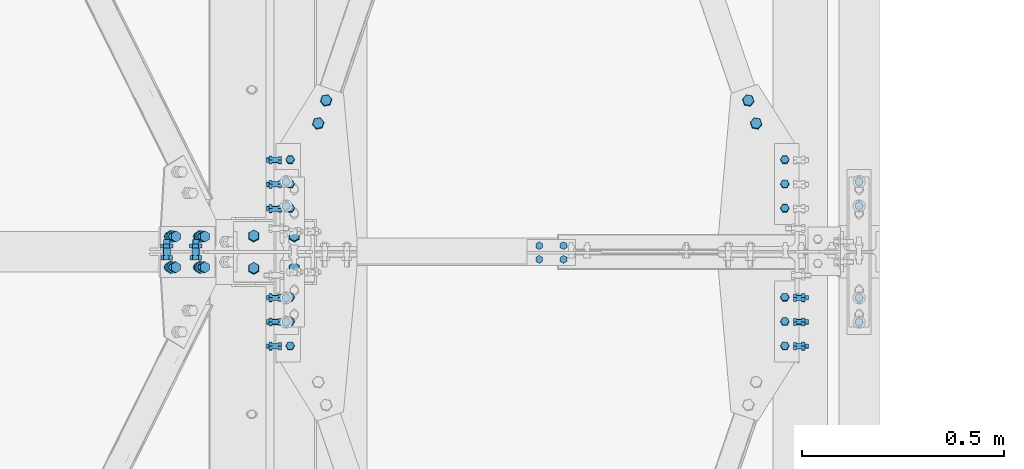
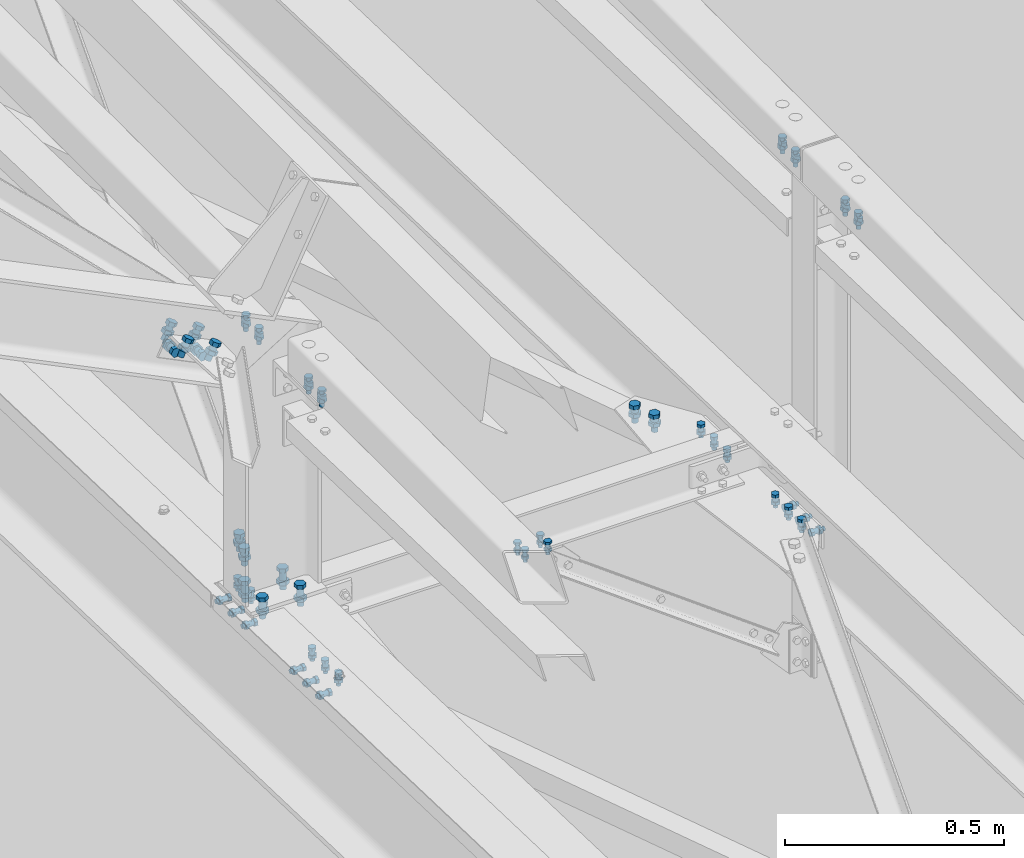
# One storey, part 192 of 362: 18 mechanical fasteners.
"""IFC2X3 building model written with IfcOpenShell, lengths in millimetres."""

import ifcopenshell
import ifcopenshell.guid

model = None  # the IFC model being written
_history = None  # IfcOwnerHistory: only IFC2X3 demands one
_inside = {}  # id of a spatial element -> (the spatial element, [elements in it])
_under = {}  # id of a project, library or spatial element -> (it, [spatial elements below it])
_declared = {}  # id of a project -> (the project, [libraries it declares])
_typed = {}  # id of a type object -> (the type object, [elements of that type])
_made_of = {}  # id of a material, layer set ... -> (it, [elements and type objects made of it])


def new_model(schema):
    """Start an empty IFC model of exactly this schema.

    Asked for "IFC4X3", IfcOpenShell would pick the latest addendum, in which some entities
    have other attributes; the version numbers below select the first issue.
    IFC2X3 requires an IfcOwnerHistory on every rooted entity: one is made here for all.
    """
    global model, _history
    if schema == "IFC4X3":
        model = ifcopenshell.file(schema_version=(4, 3, 0, 0))
    else:
        model = ifcopenshell.file(schema=schema)
    _inside.clear()
    _under.clear()
    _declared.clear()
    _typed.clear()
    _made_of.clear()
    _history = None
    if model.schema == "IFC2X3":
        org = make("IfcOrganization", Name="unknown")
        user = make(
            "IfcPersonAndOrganization",
            ThePerson=make("IfcPerson", FamilyName="unknown"),
            TheOrganization=org,
        )
        app = make(
            "IfcApplication",
            ApplicationDeveloper=org,
            Version="unknown",
            ApplicationFullName="unknown",
            ApplicationIdentifier="unknown",
        )
        _history = make(
            "IfcOwnerHistory",
            OwningUser=user,
            OwningApplication=app,
            ChangeAction="ADDED",
            CreationDate=0,
        )
    return model


def make(cls, **values):
    """One entity of the class cls with the attributes given. An attribute that is None is left unset."""
    return model.create_entity(
        cls, **{name: value for name, value in values.items() if value is not None}
    )


def rooted(cls, **values):
    """An entity with a GlobalId (a new one), such as an element, a storey or a relation."""
    return make(cls, GlobalId=ifcopenshell.guid.new(), OwnerHistory=_history, **values)


def si_unit(unit_type, name, prefix=None):
    """IfcSIUnit, for example si_unit("LENGTHUNIT", "METRE", prefix="MILLI")."""
    return make("IfcSIUnit", UnitType=unit_type, Prefix=prefix, Name=name)


def assignment(units):
    """IfcUnitAssignment: the units of a project."""
    return None if units is None else make("IfcUnitAssignment", Units=units)


def point(xyz):
    """IfcCartesianPoint."""
    return None if xyz is None else make("IfcCartesianPoint", Coordinates=xyz)


def direction(xyz):
    """IfcDirection."""
    return None if xyz is None else make("IfcDirection", DirectionRatios=xyz)


def frame(location, z_axis=None, x_axis=None):
    """IfcAxis2Placement3D, a coordinate frame: its origin and axes. An axis left out is left unset."""
    return make(
        "IfcAxis2Placement3D",
        Location=point(location),
        Axis=direction(z_axis),
        RefDirection=direction(x_axis),
    )


def frame_2d(location, x_axis=None):
    """IfcAxis2Placement2D, a coordinate frame in the plane: its origin and x axis."""
    return make(
        "IfcAxis2Placement2D", Location=point(location), RefDirection=direction(x_axis)
    )


def origin_with_axes():
    """The frame at (0, 0, 0) with the z axis (0, 0, 1) and the x axis (1, 0, 0) written out."""
    return frame((0.0, 0.0, 0.0), z_axis=(0.0, 0.0, 1.0), x_axis=(1.0, 0.0, 0.0))


def origin_2d_with_axis():
    """The frame at (0, 0) in the plane with the x axis (1, 0) written out."""
    return frame_2d((0.0, 0.0), x_axis=(1.0, 0.0))


def place(relative_to, where):
    """IfcLocalPlacement: puts the frame where relative to a parent placement (None: the world)."""
    return make(
        "IfcLocalPlacement", PlacementRelTo=relative_to, RelativePlacement=where
    )


def context(
    kind, dimensions, precision=None, world=None, true_north=None, identifier=None
):
    """IfcGeometricRepresentationContext, for example the 3D "Model" context."""
    return make(
        "IfcGeometricRepresentationContext",
        ContextIdentifier=identifier,
        ContextType=kind,
        CoordinateSpaceDimension=dimensions,
        Precision=precision,
        WorldCoordinateSystem=world,
        TrueNorth=true_north,
    )


def subcontext(parent, identifier, kind, view, scale=None):
    """IfcGeometricRepresentationSubContext, for example "Body" below "Model"."""
    return make(
        "IfcGeometricRepresentationSubContext",
        ContextIdentifier=identifier,
        ContextType=kind,
        ParentContext=parent,
        TargetScale=scale,
        TargetView=view,
    )


def project(units=None, contexts=None):
    """IfcProject with its units and contexts."""
    return rooted(
        "IfcProject",
        Name="project",
        RepresentationContexts=contexts,
        UnitsInContext=assignment(units),
    )


def spatial(cls, under=None, at=None, **own):
    """A site, building, storey or space (cls), placed at a placement, below another one or the project."""
    s = rooted(cls, ObjectPlacement=at, **own)
    if under is not None:
        _under.setdefault(under.id(), (under, []))[1].append(s)
    return s


def polyline(points):
    """IfcPolyline through the points."""
    return make("IfcPolyline", Points=[point(p) for p in points])


def circle_curve(where, radius):
    """IfcCircle in the frame where."""
    return make("IfcCircle", Position=where, Radius=radius)


def parameter(value):
    """IfcParameterValue: where a trimmed curve begins or ends, as a parameter of its basis curve."""
    return model.create_entity("IfcParameterValue", value)


def trimmed(basis, trim1, trim2, sense, master):
    """IfcTrimmedCurve: the piece of a basis curve between two trims."""
    return make(
        "IfcTrimmedCurve",
        BasisCurve=basis,
        Trim1=trim1,
        Trim2=trim2,
        SenseAgreement=sense,
        MasterRepresentation=master,
    )


def segment(curve, same_sense, transition):
    """IfcCompositeCurveSegment."""
    return make(
        "IfcCompositeCurveSegment",
        Transition=transition,
        SameSense=same_sense,
        ParentCurve=curve,
    )


def composite_curve(segments, self_intersect=None):
    """IfcCompositeCurve: segments joined end to end."""
    return make("IfcCompositeCurve", Segments=segments, SelfIntersect=self_intersect)


def profile(cls, at=None, kind="AREA", **sizes):
    """A parametric profile (cls). Its sizes go by their IFC names, for example OverallWidth=200.0."""
    return make(cls, ProfileType=kind, Position=at, **sizes)


def circle(**sizes):
    """IfcCircleProfileDef."""
    return profile("IfcCircleProfileDef", **sizes)


def outline(outer, holes=None, kind="AREA"):
    """IfcArbitraryClosedProfileDef: a profile drawn as a closed curve; with holes, ...WithVoids."""
    if holes is None:
        return make("IfcArbitraryClosedProfileDef", ProfileType=kind, OuterCurve=outer)
    return make(
        "IfcArbitraryProfileDefWithVoids",
        ProfileType=kind,
        OuterCurve=outer,
        InnerCurves=holes,
    )


def extrude(swept, where, along, depth):
    """IfcExtrudedAreaSolid: the profile swept, set in the frame where, extruded along a direction by depth."""
    return make(
        "IfcExtrudedAreaSolid",
        SweptArea=swept,
        Position=where,
        ExtrudedDirection=direction(along),
        Depth=depth,
    )


def shape(context_of_items, identifier, shape_type, items):
    """IfcShapeRepresentation: the items that make up one representation, for example the "Body"."""
    return make(
        "IfcShapeRepresentation",
        ContextOfItems=context_of_items,
        RepresentationIdentifier=identifier,
        RepresentationType=shape_type,
        Items=items,
    )


def source(mapping_origin, context_of_items, identifier, shape_type, items):
    """IfcRepresentationMap: a shape defined once, which mapped items show again and again."""
    return make(
        "IfcRepresentationMap",
        MappingOrigin=mapping_origin,
        MappedRepresentation=shape(context_of_items, identifier, shape_type, items),
    )


def transform(
    local_origin,
    x_axis=None,
    y_axis=None,
    z_axis=None,
    scale=None,
    scale2=None,
    scale3=None,
    uniform=True,
):
    """IfcCartesianTransformationOperator3D, or its non-uniform kind. x_axis, y_axis, z_axis: its Axis1, 2, 3."""
    if uniform:
        return make(
            "IfcCartesianTransformationOperator3D",
            Axis1=direction(x_axis),
            Axis2=direction(y_axis),
            LocalOrigin=point(local_origin),
            Scale=scale,
            Axis3=direction(z_axis),
        )
    return make(
        "IfcCartesianTransformationOperator3DnonUniform",
        Axis1=direction(x_axis),
        Axis2=direction(y_axis),
        LocalOrigin=point(local_origin),
        Scale=scale,
        Axis3=direction(z_axis),
        Scale2=scale2,
        Scale3=scale3,
    )


def mapped(mapping_source, mapping_target):
    """IfcMappedItem: shows the shape of a source again, moved by a transform."""
    return make(
        "IfcMappedItem", MappingSource=mapping_source, MappingTarget=mapping_target
    )


def material(Name=None, Category=None):
    """IfcMaterial."""
    return make("IfcMaterial", Name=Name, Category=Category)


def made_of(thing, what):
    """Note that an element or type object is made of a material, layer set ...; save() writes the relation."""
    if what is not None:
        _made_of.setdefault(what.id(), (what, []))[1].append(thing)
    return thing


def type_object(cls, material=None, **own):
    """A type object (cls), such as IfcWallType, which elements share."""
    return made_of(rooted(cls, **own), material)


def element(
    cls,
    number,
    at=None,
    inside=None,
    cuts=None,
    type_object=None,
    material=None,
    context=None,
    identifier="Body",
    shape_type=None,
    held_by="IfcProductDefinitionShape",
    body=None,
    shapes=None,
    **own,
):
    """One element of the class cls, such as IfcWall. Its Tag is "e" and its number.

    at: its placement. inside: the storey or other place that contains it. cuts: it is an
    opening in that element (IfcRelVoidsElement). A single representation is given by context,
    identifier, shape_type and body (its items); several are given by shapes. held_by: the class
    of the entity that holds the representations. save() writes the other relations.
    """
    e = rooted(cls, Tag="e%d" % number, ObjectPlacement=at, **own)
    if body is not None:
        shapes = [shape(context, identifier, shape_type, body)]
    if shapes is not None:
        e.Representation = make(held_by, Representations=shapes)
    if inside is not None:
        _inside.setdefault(inside.id(), (inside, []))[1].append(e)
    if cuts is not None:
        rooted(
            "IfcRelVoidsElement", RelatingBuildingElement=cuts, RelatedOpeningElement=e
        )
    if type_object is not None:
        _typed.setdefault(type_object.id(), (type_object, []))[1].append(e)
    return made_of(e, material)


def aggregate(whole, parts):
    """IfcRelAggregates: a whole, such as a stair, and the parts it consists of."""
    return rooted("IfcRelAggregates", RelatingObject=whole, RelatedObjects=parts)


def save(model, path):
    """Write the relations noted so far, then the file.

    IfcRelAggregates (storeys below a building ...), IfcRelContainedInSpatialStructure (elements
    in a storey), IfcRelDefinesByType, IfcRelAssociatesMaterial and IfcRelDeclares: one each for
    every whole, place, type object, material and project.
    """
    for whole, parts in _under.values():
        aggregate(whole, parts)
    for where, things in _inside.values():
        rooted(
            "IfcRelContainedInSpatialStructure",
            RelatedElements=things,
            RelatingStructure=where,
        )
    for kind, things in _typed.values():
        rooted("IfcRelDefinesByType", RelatedObjects=things, RelatingType=kind)
    for what, things in _made_of.values():
        rooted("IfcRelAssociatesMaterial", RelatedObjects=things, RelatingMaterial=what)
    for by, libraries in _declared.values():
        rooted("IfcRelDeclares", RelatingContext=by, RelatedDefinitions=libraries)
    model.write(path)


model = new_model("IFC2X3")

# Units and contexts
model_context = context("Model", 3, precision=1e-05, world=origin_with_axes())
body_context = subcontext(model_context, "Body", "Model", "MODEL_VIEW")
ifc_project = project(units=[si_unit("LENGTHUNIT", "METRE", prefix="MILLI"), si_unit("AREAUNIT", "SQUARE_METRE"), si_unit("VOLUMEUNIT", "CUBIC_METRE"), si_unit("MASSUNIT", "GRAM", prefix="KILO"), si_unit("TIMEUNIT", "SECOND"), si_unit("PLANEANGLEUNIT", "RADIAN"), si_unit("SOLIDANGLEUNIT", "STERADIAN"), si_unit("THERMODYNAMICTEMPERATUREUNIT", "DEGREE_CELSIUS"), si_unit("LUMINOUSINTENSITYUNIT", "LUMEN")], contexts=[model_context])

# Site, building, storey
site_placement = place(None, origin_with_axes())
site = spatial("IfcSite", under=ifc_project, at=site_placement, Name="Undefined", CompositionType="ELEMENT")
building_placement = place(site_placement, origin_with_axes())
building = spatial("IfcBuilding", under=site, at=building_placement, Name="Undefined", CompositionType="ELEMENT")
storey_placement = place(building_placement, origin_with_axes())
storey = spatial("IfcBuildingStorey", under=building, at=storey_placement, Name="Undefined", CompositionType="ELEMENT", Elevation=0.0)

# Mechanical fasteners
ifc_material_1 = material(Name="#_SB-8.8-ZINGUE")
mechanical_fastener_type = type_object("IfcMechanicalFastenerType", Name="Bolt assembly")
shared_shape_1 = source(origin_with_axes(), body_context, "Body", "SweptSolid", [
    extrude(circle(Radius=9.0, at=origin_2d_with_axis()), frame((0.0, 0.1, 0.0), z_axis=(0.0, 1.0, 0.0), x_axis=(1.0, 0.0, 0.0)), (0.0, 0.0, 1.0), 6.0),
    extrude(circle(Radius=9.0, at=origin_2d_with_axis()), frame((0.0, 5.90002706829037, 0.0), z_axis=(0.0, 1.0, 0.0), x_axis=(1.0, 0.0, 0.0)), (0.0, 0.0, 1.0), 6.1),
    extrude(outline(polyline([(13.85640646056, 0.0), (6.92820323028, 12.0000000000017), (-6.92820323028, 12.0000000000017), (-13.85640646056, 0.0), (-6.92820323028, -12.0000000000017), (6.92820323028, -12.0000000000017), (13.85640646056, 0.0)])), frame((0.0, -10.5600019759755, 0.0), z_axis=(0.0, 1.0, 0.0), x_axis=(1.0, 0.0, 0.0)), (0.0, 0.0, 1.0), 10.56),
    extrude(circle(Radius=8.0, at=origin_2d_with_axis()), frame((0.0, 0.0, 0.0), z_axis=(0.0, 1.0, 0.0), x_axis=(1.0, 0.0, 0.0)), (0.0, 0.0, 1.0), 40.0),
    extrude(outline(polyline([(15.3344231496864, 0.0), (7.6672115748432, 13.2800000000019), (-7.6672115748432, 13.2800000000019), (-15.3344231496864, 0.0), (-7.6672115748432, -13.2800000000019), (7.6672115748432, -13.2800000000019), (15.3344231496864, 0.0)])), frame((0.0, 12.0000270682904, 0.0), z_axis=(0.0, 1.0, 0.0), x_axis=(1.0, 0.0, 0.0)), (0.0, 0.0, 1.0), 10.56),
])
mechanical_fastener_1_placement = place(storey_placement, frame((38119.1074020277, 7562.0004842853, 8591.42363994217), z_axis=(-0.897398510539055, -1.29999898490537e-08, 0.441220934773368), x_axis=(0.0, 1.0, 0.0)))
element("IfcMechanicalFastener", 1, at=mechanical_fastener_1_placement, inside=storey, type_object=mechanical_fastener_type, material=ifc_material_1, Name="Bolt assembly", NominalDiameter=16.0, NominalLength=40.0, context=body_context, shape_type="MappedRepresentation", body=[
    mapped(shared_shape_1, transform((0.0, 0.0, -40.0))),
    mapped(shared_shape_1, transform((0.0, 0.0, 40.0))),
])
mechanical_fastener_2_placement = place(storey_placement, frame((38119.1074008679, 7638.00027906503, 8591.42363992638), z_axis=(0.897398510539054, 0.0, -0.44122093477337), x_axis=(0.0, -1.0, 0.0)))
element("IfcMechanicalFastener", 2, at=mechanical_fastener_2_placement, inside=storey, type_object=mechanical_fastener_type, material=ifc_material_1, Name="Bolt assembly", NominalDiameter=16.0, NominalLength=40.0, context=body_context, shape_type="MappedRepresentation", body=[
    mapped(shared_shape_1, transform((0.0, 0.0, 40.0))),
    mapped(shared_shape_1, transform((0.0, 0.0, -40.0))),
])
ifc_material_2 = material(Name="8.8-SB-ZINGUE")
shared_shape_2 = source(origin_with_axes(), body_context, "Body", "SweptSolid", [
    extrude(circle(Radius=7.0, at=origin_2d_with_axis()), frame((0.0, -0.100011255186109, 0.0), z_axis=(0.0, 1.0, 0.0), x_axis=(1.0, 0.0, 0.0)), (0.0, 0.0, 1.0), 6.1),
    extrude(circle(Radius=7.0, at=origin_2d_with_axis()), frame((0.0, -5.9000361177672, 0.0), z_axis=(0.0, 1.0, 0.0), x_axis=(1.0, 0.0, 0.0)), (0.0, 0.0, 1.0), 6.0),
    extrude(outline(polyline([(10.39230484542, 0.0), (5.19615242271, 9.00000000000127), (-5.19615242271, 9.00000000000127), (-10.39230484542, 0.0), (-5.19615242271, -9.00000000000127), (5.19615242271, -9.00000000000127), (10.39230484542, 0.0)])), frame((0.0, -13.9200361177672, 0.0), z_axis=(0.0, 1.0, 0.0), x_axis=(1.0, 0.0, 0.0)), (0.0, 0.0, 1.0), 7.92),
    extrude(circle(Radius=6.0, at=origin_2d_with_axis()), frame((0.0, -6.00003611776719, 0.0), z_axis=(0.0, 1.0, 0.0), x_axis=(1.0, 0.0, 0.0)), (0.0, 0.0, 1.0), 30.0),
    extrude(outline(polyline([(11.5008173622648, 0.0), (5.7504086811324, 9.96000000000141), (-5.7504086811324, 9.96000000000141), (-11.5008173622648, 0.0), (-5.7504086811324, -9.96000000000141), (5.7504086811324, -9.96000000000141), (11.5008173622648, 0.0)])), frame((0.0, 6.0, 0.0), z_axis=(0.0, 1.0, 0.0), x_axis=(1.0, 0.0, 0.0)), (0.0, 0.0, 1.0), 7.92),
])
for number, where, z_axis, x_axis, name in (
    (3, (38370.0, 7428.01076392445, 7690.50313556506), (0.0, -0.999506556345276, 0.031410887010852), (-1.0, 0.0, 0.0), "Bolt assembly"),
    (4, (38370.0, 7767.84299560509, 7679.82351422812), (0.0, -0.999506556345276, 0.031410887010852), (-1.0, 0.0, 0.0), "Bolt assembly"),
):
    element("IfcMechanicalFastener", number, at=place(storey_placement, frame(where, z_axis=z_axis, x_axis=x_axis)), inside=storey, type_object=mechanical_fastener_type, material=ifc_material_2, Name=name, NominalDiameter=12.0, NominalLength=30.0, context=body_context, shape_type="MappedRepresentation", body=[
        mapped(shared_shape_2, transform((0.0, 0.0, -60.0))),
        mapped(shared_shape_2, transform((0.0, 0.0, 0.0))),
        mapped(shared_shape_2, transform((0.0, 0.0, 60.0))),
    ])
shared_shape_3 = source(origin_with_axes(), body_context, "Body", "SweptSolid", [
    extrude(circle(Radius=7.0, at=origin_2d_with_axis()), frame((0.0, -3.89999843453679, 0.0), z_axis=(0.0, 1.0, 0.0), x_axis=(1.0, 0.0, 0.0)), (0.0, 0.0, 1.0), 4.0),
    extrude(outline(composite_curve([segment(polyline([(-7.0, 7.0), (7.0, 7.0)]), True, "CONTINUOUS"), segment(trimmed(circle_curve(frame_2d((7.0, 0.0), x_axis=(0.0, 1.0)), 7.0), [parameter(0.0)], [parameter(3.14159265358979)], False, "PARAMETER"), True, "CONTINUOUS"), segment(polyline([(7.0, -7.0), (-7.0, -7.0)]), True, "CONTINUOUS"), segment(trimmed(circle_curve(frame_2d((-7.0, 0.0), x_axis=(0.0, -1.0)), 7.0), [parameter(0.0)], [parameter(3.14159265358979)], False, "PARAMETER"), True, "DISCONTINUOUS")], self_intersect=False)), frame((0.0, -0.100011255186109, 0.0), z_axis=(0.0, 1.0, 0.0), x_axis=(1.0, 0.0, 0.0)), (0.0, 0.0, 1.0), 10.1),
    extrude(outline(polyline([(10.39230484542, 0.0), (5.19615242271, 9.00000000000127), (-5.19615242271, 9.00000000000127), (-10.39230484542, 0.0), (-5.19615242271, -9.00000000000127), (5.19615242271, -9.00000000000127), (10.39230484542, 0.0)])), frame((0.0, -11.9199984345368, 0.0), z_axis=(0.0, 1.0, 0.0), x_axis=(1.0, 0.0, 0.0)), (0.0, 0.0, 1.0), 7.92),
    extrude(circle(Radius=6.0, at=origin_2d_with_axis()), frame((0.0, -3.99999923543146, 0.0), z_axis=(0.0, 1.0, 0.0), x_axis=(1.0, 0.0, 0.0)), (0.0, 0.0, 1.0), 40.0),
    extrude(circle(Radius=10.8, at=origin_2d_with_axis()), frame((0.0, 10.0000000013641, 0.0), z_axis=(0.0, 1.0, 0.0), x_axis=(1.0, 0.0, 0.0)), (0.0, 0.0, 1.0), 3.96),
    extrude(outline(polyline([(11.5008173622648, 0.0), (5.7504086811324, 9.96000000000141), (-5.7504086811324, 9.96000000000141), (-11.5008173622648, 0.0), (-5.7504086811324, -9.96000000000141), (5.7504086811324, -9.96000000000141), (11.5008173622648, 0.0)])), frame((0.0, 13.96, 0.0), z_axis=(0.0, 1.0, 0.0), x_axis=(1.0, 0.0, 0.0)), (0.0, 0.0, 1.0), 7.92),
])
mechanical_fastener_3_placement = place(storey_placement, frame((39775.0, 7773.5, 8450.0), z_axis=(1.0, 0.0, 0.0), x_axis=(0.0, -1.0, 0.0)))
element("IfcMechanicalFastener", 5, at=mechanical_fastener_3_placement, inside=storey, type_object=mechanical_fastener_type, material=ifc_material_2, Name="Bolt assembly", NominalDiameter=12.0, NominalLength=40.0, context=body_context, shape_type="MappedRepresentation", body=[
    mapped(shared_shape_3, transform((0.0, 0.0, 0.0))),
    mapped(shared_shape_3, transform((60.0, 0.0, 0.0))),
])
shared_shape_4 = source(origin_with_axes(), body_context, "Body", "SweptSolid", [
    extrude(circle(Radius=7.0, at=origin_2d_with_axis()), frame((0.0, -3.89999843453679, 0.0), z_axis=(0.0, 1.0, 0.0), x_axis=(1.0, 0.0, 0.0)), (0.0, 0.0, 1.0), 4.0),
    extrude(outline(composite_curve([segment(polyline([(-7.0, 7.0), (7.0, 7.0)]), True, "CONTINUOUS"), segment(trimmed(circle_curve(frame_2d((7.0, 0.0), x_axis=(0.0, 1.0)), 7.0), [parameter(0.0)], [parameter(3.14159265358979)], False, "PARAMETER"), True, "CONTINUOUS"), segment(polyline([(7.0, -7.0), (-7.0, -7.0)]), True, "CONTINUOUS"), segment(trimmed(circle_curve(frame_2d((-7.0, 0.0), x_axis=(0.0, -1.0)), 7.0), [parameter(0.0)], [parameter(3.14159265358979)], False, "PARAMETER"), True, "DISCONTINUOUS")], self_intersect=False)), frame((0.0, -0.100011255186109, 0.0), z_axis=(0.0, 1.0, 0.0), x_axis=(1.0, 0.0, 0.0)), (0.0, 0.0, 1.0), 10.1),
    extrude(outline(polyline([(10.39230484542, 0.0), (5.19615242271, 9.00000000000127), (-5.19615242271, 9.00000000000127), (-10.39230484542, 0.0), (-5.19615242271, -9.00000000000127), (5.19615242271, -9.00000000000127), (10.39230484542, 0.0)])), frame((0.0, -11.9199984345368, 0.0), z_axis=(0.0, 1.0, 0.0), x_axis=(1.0, 0.0, 0.0)), (0.0, 0.0, 1.0), 7.92),
    extrude(circle(Radius=6.0, at=origin_2d_with_axis()), frame((0.0, -3.99999923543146, 0.0), z_axis=(0.0, 1.0, 0.0), x_axis=(1.0, 0.0, 0.0)), (0.0, 0.0, 1.0), 40.0),
    extrude(circle(Radius=10.8, at=origin_2d_with_axis()), frame((0.0, 10.0000000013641, 0.0), z_axis=(0.0, 1.0, 0.0), x_axis=(1.0, 0.0, 0.0)), (0.0, 0.0, 1.0), 3.96),
    extrude(outline(polyline([(11.5008173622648, 0.0), (5.7504086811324, 9.96000000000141), (-5.7504086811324, 9.96000000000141), (-11.5008173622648, 0.0), (-5.7504086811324, -9.96000000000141), (5.7504086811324, -9.96000000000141), (11.5008173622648, 0.0)])), frame((0.0, 13.96, 0.0), z_axis=(0.0, 1.0, 0.0), x_axis=(1.0, 0.0, 0.0)), (0.0, 0.0, 1.0), 7.92),
])
mechanical_fastener_4_placement = place(storey_placement, frame((39775.0, 7426.5, 8450.0), z_axis=(-1.0, 0.0, 0.0), x_axis=(0.0, 1.0, 0.0)))
element("IfcMechanicalFastener", 6, at=mechanical_fastener_4_placement, inside=storey, type_object=mechanical_fastener_type, material=ifc_material_2, Name="Bolt assembly", NominalDiameter=12.0, NominalLength=40.0, context=body_context, shape_type="MappedRepresentation", body=[
    mapped(shared_shape_4, transform((0.0, 0.0, 0.0))),
    mapped(shared_shape_4, transform((60.0, 0.0, 0.0))),
])
shared_shape_5 = source(origin_with_axes(), body_context, "Body", "SweptSolid", [
    extrude(circle(Radius=9.0, at=origin_2d_with_axis()), frame((0.0, -2.80035671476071, 0.0), z_axis=(0.0, 1.0, 0.0), x_axis=(1.0, 0.0, 0.0)), (0.0, 0.0, 1.0), 5.6),
    extrude(circle(Radius=9.0, at=origin_2d_with_axis()), frame((0.0, 2.89989517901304, 0.0), z_axis=(0.0, 1.0, 0.0), x_axis=(1.0, 0.0, 0.0)), (0.0, 0.0, 1.0), 6.1),
    extrude(circle(Radius=9.0, at=origin_2d_with_axis()), frame((0.0, -8.89990143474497, 0.0), z_axis=(0.0, 1.0, 0.0), x_axis=(1.0, 0.0, 0.0)), (0.0, 0.0, 1.0), 6.0),
    extrude(outline(polyline([(13.85640646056, 0.0), (6.92820323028, 12.0000000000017), (-6.92820323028, 12.0000000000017), (-13.85640646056, 0.0), (-6.92820323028, -12.0000000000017), (6.92820323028, -12.0000000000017), (13.85640646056, 0.0)])), frame((0.0, -19.559901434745, 0.0), z_axis=(0.0, 1.0, 0.0), x_axis=(1.0, 0.0, 0.0)), (0.0, 0.0, 1.0), 10.56),
    extrude(circle(Radius=8.0, at=origin_2d_with_axis()), frame((0.0, -8.99990143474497, 0.0), z_axis=(0.0, 1.0, 0.0), x_axis=(1.0, 0.0, 0.0)), (0.0, 0.0, 1.0), 40.0),
    extrude(outline(polyline([(15.3344231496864, 0.0), (7.6672115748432, 13.2800000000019), (-7.6672115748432, 13.2800000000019), (-15.3344231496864, 0.0), (-7.6672115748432, -13.2800000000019), (7.6672115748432, -13.2800000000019), (15.3344231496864, 0.0)])), frame((0.0, 8.9999337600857, 0.0), z_axis=(0.0, 1.0, 0.0), x_axis=(1.0, 0.0, 0.0)), (0.0, 0.0, 1.0), 10.56),
])
mechanical_fastener_5_placement = place(storey_placement, frame((38101.0174156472, 7600.00038452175, 8554.63022809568), z_axis=(-0.897398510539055, -1.29999898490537e-08, 0.441220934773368), x_axis=(0.44122027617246, 6.00001450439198e-09, 0.897398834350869)))
element("IfcMechanicalFastener", 7, at=mechanical_fastener_5_placement, inside=storey, type_object=mechanical_fastener_type, material=ifc_material_1, Name="Bolt assembly", NominalDiameter=16.0, NominalLength=40.0, context=body_context, shape_type="MappedRepresentation", body=[
    mapped(shared_shape_5, transform((0.0, 0.0, -40.0))),
    mapped(shared_shape_5, transform((0.0, 0.0, 40.0))),
])
shared_shape_6 = source(origin_with_axes(), body_context, "Body", "SweptSolid", [
    extrude(circle(Radius=7.0, at=origin_2d_with_axis()), frame((0.0, -3.89999843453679, 0.0), z_axis=(0.0, 1.0, 0.0), x_axis=(1.0, 0.0, 0.0)), (0.0, 0.0, 1.0), 4.0),
    extrude(outline(composite_curve([segment(polyline([(-7.0, 7.0), (7.0, 7.0)]), True, "CONTINUOUS"), segment(trimmed(circle_curve(frame_2d((7.0, 0.0), x_axis=(0.0, 1.0)), 7.0), [parameter(0.0)], [parameter(3.14159265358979)], False, "PARAMETER"), True, "CONTINUOUS"), segment(polyline([(7.0, -7.0), (-7.0, -7.0)]), True, "CONTINUOUS"), segment(trimmed(circle_curve(frame_2d((-7.0, 0.0), x_axis=(0.0, -1.0)), 7.0), [parameter(0.0)], [parameter(3.14159265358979)], False, "PARAMETER"), True, "DISCONTINUOUS")], self_intersect=False)), frame((0.0, -0.100011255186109, 0.0), z_axis=(0.0, 1.0, 0.0), x_axis=(1.0, 0.0, 0.0)), (0.0, 0.0, 1.0), 10.1),
    extrude(outline(polyline([(10.39230484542, 0.0), (5.19615242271, 9.00000000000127), (-5.19615242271, 9.00000000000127), (-10.39230484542, 0.0), (-5.19615242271, -9.00000000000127), (5.19615242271, -9.00000000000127), (10.39230484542, 0.0)])), frame((0.0, -11.9199984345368, 0.0), z_axis=(0.0, 1.0, 0.0), x_axis=(1.0, 0.0, 0.0)), (0.0, 0.0, 1.0), 7.92),
    extrude(circle(Radius=6.0, at=origin_2d_with_axis()), frame((0.0, -3.99999923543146, 0.0), z_axis=(0.0, 1.0, 0.0), x_axis=(1.0, 0.0, 0.0)), (0.0, 0.0, 1.0), 40.0),
    extrude(circle(Radius=10.8, at=origin_2d_with_axis()), frame((0.0, 10.0000000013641, 0.0), z_axis=(0.0, 1.0, 0.0), x_axis=(1.0, 0.0, 0.0)), (0.0, 0.0, 1.0), 3.96),
    extrude(outline(polyline([(11.5008173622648, 0.0), (5.7504086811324, 9.96000000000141), (-5.7504086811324, 9.96000000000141), (-11.5008173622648, 0.0), (-5.7504086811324, -9.96000000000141), (5.7504086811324, -9.96000000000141), (11.5008173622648, 0.0)])), frame((0.0, 13.96, 0.0), z_axis=(0.0, 1.0, 0.0), x_axis=(1.0, 0.0, 0.0)), (0.0, 0.0, 1.0), 7.92),
])
mechanical_fastener_6_placement = place(storey_placement, frame((38360.0, 7773.5, 8450.0), z_axis=(1.0, 0.0, 0.0), x_axis=(0.0, -1.0, 0.0)))
element("IfcMechanicalFastener", 8, at=mechanical_fastener_6_placement, inside=storey, type_object=mechanical_fastener_type, material=ifc_material_2, Name="Bolt assembly", NominalDiameter=12.0, NominalLength=40.0, context=body_context, shape_type="MappedRepresentation", body=[
    mapped(shared_shape_6, transform((0.0, 0.0, 0.0))),
    mapped(shared_shape_6, transform((60.0, 0.0, 0.0))),
])
shared_shape_7 = source(origin_with_axes(), body_context, "Body", "SweptSolid", [
    extrude(circle(Radius=7.0, at=origin_2d_with_axis()), frame((0.0, -3.89999843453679, 0.0), z_axis=(0.0, 1.0, 0.0), x_axis=(1.0, 0.0, 0.0)), (0.0, 0.0, 1.0), 4.0),
    extrude(outline(composite_curve([segment(polyline([(-7.0, 7.0), (7.0, 7.0)]), True, "CONTINUOUS"), segment(trimmed(circle_curve(frame_2d((7.0, 0.0), x_axis=(0.0, 1.0)), 7.0), [parameter(0.0)], [parameter(3.14159265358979)], False, "PARAMETER"), True, "CONTINUOUS"), segment(polyline([(7.0, -7.0), (-7.0, -7.0)]), True, "CONTINUOUS"), segment(trimmed(circle_curve(frame_2d((-7.0, 0.0), x_axis=(0.0, -1.0)), 7.0), [parameter(0.0)], [parameter(3.14159265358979)], False, "PARAMETER"), True, "DISCONTINUOUS")], self_intersect=False)), frame((0.0, -0.100011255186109, 0.0), z_axis=(0.0, 1.0, 0.0), x_axis=(1.0, 0.0, 0.0)), (0.0, 0.0, 1.0), 10.1),
    extrude(outline(polyline([(10.39230484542, 0.0), (5.19615242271, 9.00000000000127), (-5.19615242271, 9.00000000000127), (-10.39230484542, 0.0), (-5.19615242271, -9.00000000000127), (5.19615242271, -9.00000000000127), (10.39230484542, 0.0)])), frame((0.0, -11.9199984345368, 0.0), z_axis=(0.0, 1.0, 0.0), x_axis=(1.0, 0.0, 0.0)), (0.0, 0.0, 1.0), 7.92),
    extrude(circle(Radius=6.0, at=origin_2d_with_axis()), frame((0.0, -3.99999923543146, 0.0), z_axis=(0.0, 1.0, 0.0), x_axis=(1.0, 0.0, 0.0)), (0.0, 0.0, 1.0), 40.0),
    extrude(circle(Radius=10.8, at=origin_2d_with_axis()), frame((0.0, 10.0000000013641, 0.0), z_axis=(0.0, 1.0, 0.0), x_axis=(1.0, 0.0, 0.0)), (0.0, 0.0, 1.0), 3.96),
    extrude(outline(polyline([(11.5008173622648, 0.0), (5.7504086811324, 9.96000000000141), (-5.7504086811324, 9.96000000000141), (-11.5008173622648, 0.0), (-5.7504086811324, -9.96000000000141), (5.7504086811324, -9.96000000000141), (11.5008173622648, 0.0)])), frame((0.0, 13.96, 0.0), z_axis=(0.0, 1.0, 0.0), x_axis=(1.0, 0.0, 0.0)), (0.0, 0.0, 1.0), 7.92),
])
mechanical_fastener_7_placement = place(storey_placement, frame((38360.0, 7426.5, 8450.0), z_axis=(-1.0, 0.0, 0.0), x_axis=(0.0, 1.0, 0.0)))
element("IfcMechanicalFastener", 9, at=mechanical_fastener_7_placement, inside=storey, type_object=mechanical_fastener_type, material=ifc_material_2, Name="Bolt assembly", NominalDiameter=12.0, NominalLength=40.0, context=body_context, shape_type="MappedRepresentation", body=[
    mapped(shared_shape_7, transform((0.0, 0.0, 0.0))),
    mapped(shared_shape_7, transform((60.0, 0.0, 0.0))),
])
shared_shape_8 = source(origin_with_axes(), body_context, "Body", "SweptSolid", [
    extrude(circle(Radius=9.0, at=origin_2d_with_axis()), frame((0.0, -0.100011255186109, 0.0), z_axis=(0.0, 1.0, 0.0), x_axis=(1.0, 0.0, 0.0)), (0.0, 0.0, 1.0), 14.7),
    extrude(circle(Radius=9.0, at=origin_2d_with_axis()), frame((0.0, -9.9, 0.0), z_axis=(0.0, 1.0, 0.0), x_axis=(1.0, 0.0, 0.0)), (0.0, 0.0, 1.0), 10.0),
    extrude(outline(polyline([(13.85640646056, 0.0), (6.92820323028, 12.0000000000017), (-6.92820323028, 12.0000000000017), (-13.85640646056, 0.0), (-6.92820323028, -12.0000000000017), (6.92820323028, -12.0000000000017), (13.85640646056, 0.0)])), frame((0.0, -20.5600000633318, 0.0), z_axis=(0.0, 1.0, 0.0), x_axis=(1.0, 0.0, 0.0)), (0.0, 0.0, 1.0), 10.56),
    extrude(circle(Radius=8.0, at=origin_2d_with_axis()), frame((0.0, -10.0000010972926, 0.0), z_axis=(0.0, 1.0, 0.0), x_axis=(1.0, 0.0, 0.0)), (0.0, 0.0, 1.0), 50.0),
    extrude(outline(polyline([(15.3344231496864, 0.0), (7.6672115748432, 13.2800000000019), (-7.6672115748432, 13.2800000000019), (-15.3344231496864, 0.0), (-7.6672115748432, -13.2800000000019), (7.6672115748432, -13.2800000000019), (15.3344231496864, 0.0)])), frame((0.0, 14.5999903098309, 0.0), z_axis=(0.0, 1.0, 0.0), x_axis=(1.0, 0.0, 0.0)), (0.0, 0.0, 1.0), 10.56),
])
mechanical_fastener_8_placement = place(storey_placement, frame((38330.0, 7559.70531343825, 7812.42764782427), z_axis=(-1.0, 0.0, 0.0), x_axis=(3.14103090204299e-11, 0.999506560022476, -0.0314107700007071)))
element("IfcMechanicalFastener", 10, at=mechanical_fastener_8_placement, inside=storey, type_object=mechanical_fastener_type, material=ifc_material_2, Name="Bolt assembly", NominalDiameter=16.0, NominalLength=50.0, context=body_context, shape_type="MappedRepresentation", body=[
    mapped(shared_shape_8, transform((0.0, 0.0, -50.0))),
    mapped(shared_shape_8, transform((79.9999999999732, 9.09494701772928e-13, -50.0))),
    mapped(shared_shape_8, transform((0.0, 0.0, 50.0))),
    mapped(shared_shape_8, transform((79.9999999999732, 9.09494701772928e-13, 50.0))),
])
ifc_material_3 = material(Name="6.8")
shared_shape_9 = source(origin_with_axes(), body_context, "Body", "SweptSolid", [
    extrude(circle(Radius=6.0, at=origin_2d_with_axis()), frame((0.0, -6.20005331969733, 0.0), z_axis=(0.0, 1.0, 0.0), x_axis=(1.0, 0.0, 0.0)), (0.0, 0.0, 1.0), 6.3),
    extrude(circle(Radius=6.0, at=origin_2d_with_axis()), frame((0.0, -0.10007666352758, 0.0), z_axis=(0.0, 1.0, 0.0), x_axis=(1.0, 0.0, 0.0)), (0.0, 0.0, 1.0), 6.1),
    extrude(outline(polyline([(9.81495457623, 0.0), (4.907477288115, 8.5000000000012), (-4.907477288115, 8.5000000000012), (-9.81495457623, 0.0), (-4.907477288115, -8.5000000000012), (4.907477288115, -8.5000000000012), (9.81495457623, 0.0)])), frame((0.0, -13.8000533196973, 0.0), z_axis=(0.0, 1.0, 0.0), x_axis=(1.0, 0.0, 0.0)), (0.0, 0.0, 1.0), 7.5),
    extrude(circle(Radius=5.0, at=origin_2d_with_axis()), frame((0.0, -6.30005331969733, 0.0), z_axis=(0.0, 1.0, 0.0), x_axis=(1.0, 0.0, 0.0)), (0.0, 0.0, 1.0), 30.0),
    extrude(outline(polyline([(9.23760430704, 0.0), (4.61880215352, 8.00000000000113), (-4.61880215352, 8.00000000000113), (-9.23760430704, 0.0), (-4.61880215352, -8.00000000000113), (4.61880215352, -8.00000000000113), (9.23760430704, 0.0)])), frame((0.0, 5.99994687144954, 0.0), z_axis=(0.0, 1.0, 0.0), x_axis=(1.0, 0.0, 0.0)), (0.0, 0.0, 1.0), 8.4),
])
mechanical_fastener_9_placement = place(storey_placement, frame((39015.0, 7581.12374132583, 7691.69426581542), z_axis=(-1.0, 0.0, 0.0), x_axis=(3.14103090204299e-11, 0.999506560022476, -0.0314107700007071)))
element("IfcMechanicalFastener", 11, at=mechanical_fastener_9_placement, inside=storey, type_object=mechanical_fastener_type, material=ifc_material_3, Name="Bolt assembly", NominalDiameter=10.0, NominalLength=30.0, context=body_context, shape_type="MappedRepresentation", body=[
    mapped(shared_shape_9, transform((0.0, 0.0, -30.0))),
    mapped(shared_shape_9, transform((33.9999999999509, -3.27418092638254e-11, -30.0))),
    mapped(shared_shape_9, transform((0.0, 0.0, 30.0))),
    mapped(shared_shape_9, transform((33.9999999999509, -3.27418092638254e-11, 30.0))),
])
shared_shape_10 = source(origin_with_axes(), body_context, "Body", "SweptSolid", [
    extrude(circle(Radius=9.0, at=origin_2d_with_axis()), frame((0.0, -8.9, 0.0), z_axis=(0.0, 1.0, 0.0), x_axis=(1.0, 0.0, 0.0)), (0.0, 0.0, 1.0), 6.0),
    extrude(circle(Radius=9.0, at=origin_2d_with_axis()), frame((0.0, -3.09999932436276, 0.0), z_axis=(0.0, 1.0, 0.0), x_axis=(1.0, 0.0, 0.0)), (0.0, 0.0, 1.0), 6.1),
    extrude(outline(polyline([(13.85640646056, 0.0), (6.92820323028, 12.0000000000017), (-6.92820323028, 12.0000000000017), (-13.85640646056, 0.0), (-6.92820323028, -12.0000000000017), (6.92820323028, -12.0000000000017), (13.85640646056, 0.0)])), frame((0.0, -19.5600543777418, 0.0), z_axis=(0.0, 1.0, 0.0), x_axis=(1.0, 0.0, 0.0)), (0.0, 0.0, 1.0), 10.56),
    extrude(circle(Radius=8.0, at=origin_2d_with_axis()), frame((0.0, -9.0, 0.0), z_axis=(0.0, 1.0, 0.0), x_axis=(1.0, 0.0, 0.0)), (0.0, 0.0, 1.0), 40.0),
    extrude(outline(polyline([(15.3344231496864, 0.0), (7.6672115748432, 13.2800000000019), (-7.6672115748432, 13.2800000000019), (-15.3344231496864, 0.0), (-7.6672115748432, -13.2800000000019), (7.6672115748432, -13.2800000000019), (15.3344231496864, 0.0)])), frame((0.0, 3.00000067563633, 0.0), z_axis=(0.0, 1.0, 0.0), x_axis=(1.0, 0.0, 0.0)), (0.0, 0.0, 1.0), 10.56),
])
mechanical_fastener_10_placement = place(storey_placement, frame((38439.269962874, 7917.42459760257, 7678.12418436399), z_axis=(-0.946212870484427, 0.323385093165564, -0.0101629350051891), x_axis=(0.323545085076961, 0.945745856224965, -0.0297212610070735)))
element("IfcMechanicalFastener", 12, at=mechanical_fastener_10_placement, inside=storey, type_object=mechanical_fastener_type, material=ifc_material_2, Name="Bolt assembly", NominalDiameter=16.0, NominalLength=40.0, context=body_context, shape_type="MappedRepresentation", body=[
    mapped(shared_shape_10, transform((0.0, 0.0, 0.0))),
    mapped(shared_shape_10, transform((60.0, 0.0, 0.0))),
])
shared_shape_11 = source(origin_with_axes(), body_context, "Body", "SweptSolid", [
    extrude(circle(Radius=9.0, at=origin_2d_with_axis()), frame((0.0, 2.89989517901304, 0.0), z_axis=(0.0, 1.0, 0.0), x_axis=(1.0, 0.0, 0.0)), (0.0, 0.0, 1.0), 6.1),
    extrude(circle(Radius=9.0, at=origin_2d_with_axis()), frame((0.0, -2.9, 0.0), z_axis=(0.0, 1.0, 0.0), x_axis=(1.0, 0.0, 0.0)), (0.0, 0.0, 1.0), 6.0),
    extrude(outline(polyline([(13.85640646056, 0.0), (6.92820323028, 12.0000000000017), (-6.92820323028, 12.0000000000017), (-13.85640646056, 0.0), (-6.92820323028, -12.0000000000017), (6.92820323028, -12.0000000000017), (13.85640646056, 0.0)])), frame((0.0, -13.56, 0.0), z_axis=(0.0, 1.0, 0.0), x_axis=(1.0, 0.0, 0.0)), (0.0, 0.0, 1.0), 10.56),
    extrude(circle(Radius=8.0, at=origin_2d_with_axis()), frame((0.0, -2.99999932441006, 0.0), z_axis=(0.0, 1.0, 0.0), x_axis=(1.0, 0.0, 0.0)), (0.0, 0.0, 1.0), 40.0),
    extrude(outline(polyline([(15.3344231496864, 0.0), (7.6672115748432, 13.2800000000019), (-7.6672115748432, 13.2800000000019), (-15.3344231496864, 0.0), (-7.6672115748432, -13.2800000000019), (7.6672115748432, -13.2800000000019), (15.3344231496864, 0.0)])), frame((0.0, 8.9999337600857, 0.0), z_axis=(0.0, 1.0, 0.0), x_axis=(1.0, 0.0, 0.0)), (0.0, 0.0, 1.0), 10.56),
])
mechanical_fastener_11_placement = place(storey_placement, frame((39520.7300624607, 7917.42460606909, 7678.12418407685), z_axis=(-0.94621275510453, -0.323385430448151, 0.0101629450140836), x_axis=(-0.323544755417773, 0.945745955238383, -0.0297216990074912)))
element("IfcMechanicalFastener", 13, at=mechanical_fastener_11_placement, inside=storey, type_object=mechanical_fastener_type, material=ifc_material_2, Name="Bolt assembly", NominalDiameter=16.0, NominalLength=40.0, context=body_context, shape_type="MappedRepresentation", body=[
    mapped(shared_shape_11, transform((0.0, 0.0, 0.0))),
    mapped(shared_shape_11, transform((60.0, 0.0, 0.0))),
])
shared_shape_12 = source(origin_with_axes(), body_context, "Body", "SweptSolid", [
    extrude(circle(Radius=7.0, at=origin_2d_with_axis()), frame((0.0, -0.100011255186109, 0.0), z_axis=(0.0, 1.0, 0.0), x_axis=(1.0, 0.0, 0.0)), (0.0, 0.0, 1.0), 6.1),
    extrude(circle(Radius=7.0, at=origin_2d_with_axis()), frame((0.0, -5.8999542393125, 0.0), z_axis=(0.0, 1.0, 0.0), x_axis=(1.0, 0.0, 0.0)), (0.0, 0.0, 1.0), 6.0),
    extrude(outline(polyline([(10.39230484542, 0.0), (5.19615242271, 9.00000000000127), (-5.19615242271, 9.00000000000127), (-10.39230484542, 0.0), (-5.19615242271, -9.00000000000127), (5.19615242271, -9.00000000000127), (10.39230484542, 0.0)])), frame((0.0, -13.9199542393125, 0.0), z_axis=(0.0, 1.0, 0.0), x_axis=(1.0, 0.0, 0.0)), (0.0, 0.0, 1.0), 7.92),
    extrude(circle(Radius=6.0, at=origin_2d_with_axis()), frame((0.0, -5.9999542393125, 0.0), z_axis=(0.0, 1.0, 0.0), x_axis=(1.0, 0.0, 0.0)), (0.0, 0.0, 1.0), 30.0),
    extrude(outline(polyline([(11.5008173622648, 0.0), (5.7504086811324, 9.96000000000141), (-5.7504086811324, 9.96000000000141), (-11.5008173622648, 0.0), (-5.7504086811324, -9.96000000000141), (5.7504086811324, -9.96000000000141), (11.5008173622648, 0.0)])), frame((0.0, 6.0, 0.0), z_axis=(0.0, 1.0, 0.0), x_axis=(1.0, 0.0, 0.0)), (0.0, 0.0, 1.0), 7.92),
])
for number, where, z_axis, x_axis, name in (
    (14, (39591.4999999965, 7428.01076398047, 7690.50313556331), (3.14103090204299e-11, 0.999506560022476, -0.0314107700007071), (1.0, 0.0, 0.0), "Bolt assembly"),
    (15, (39591.4999999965, 7767.84299563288, 7679.82351422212), (3.14103090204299e-11, 0.999506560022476, -0.0314107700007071), (1.0, 0.0, 0.0), "Bolt assembly"),
):
    element("IfcMechanicalFastener", number, at=place(storey_placement, frame(where, z_axis=z_axis, x_axis=x_axis)), inside=storey, type_object=mechanical_fastener_type, material=ifc_material_2, Name=name, NominalDiameter=12.0, NominalLength=30.0, context=body_context, shape_type="MappedRepresentation", body=[
        mapped(shared_shape_12, transform((0.0, 0.0, -60.0))),
        mapped(shared_shape_12, transform((0.0, 0.0, 0.0))),
        mapped(shared_shape_12, transform((0.0, 0.0, 60.0))),
    ])
shared_shape_13 = source(origin_with_axes(), body_context, "Body", "SweptSolid", [
    extrude(circle(Radius=7.0, at=origin_2d_with_axis()), frame((0.0, -3.40000002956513, 0.0), z_axis=(0.0, 1.0, 0.0), x_axis=(1.0, 0.0, 0.0)), (0.0, 0.0, 1.0), 6.7),
    extrude(circle(Radius=7.0, at=origin_2d_with_axis()), frame((0.0, -9.40000000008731, 0.0), z_axis=(0.0, 1.0, 0.0), x_axis=(1.0, 0.0, 0.0)), (0.0, 0.0, 1.0), 6.0),
    extrude(outline(polyline([(10.39230484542, 0.0), (5.19615242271, 9.00000000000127), (-5.19615242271, 9.00000000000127), (-10.39230484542, 0.0), (-5.19615242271, -9.00000000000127), (5.19615242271, -9.00000000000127), (10.39230484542, 0.0)])), frame((0.0, -17.4200000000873, 0.0), z_axis=(0.0, 1.0, 0.0), x_axis=(1.0, 0.0, 0.0)), (0.0, 0.0, 1.0), 7.92),
    extrude(circle(Radius=6.0, at=origin_2d_with_axis()), frame((0.0, -9.50000000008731, 0.0), z_axis=(0.0, 1.0, 0.0), x_axis=(1.0, 0.0, 0.0)), (0.0, 0.0, 1.0), 30.0),
    extrude(outline(polyline([(11.5008173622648, 0.0), (5.7504086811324, 9.96000000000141), (-5.7504086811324, 9.96000000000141), (-11.5008173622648, 0.0), (-5.7504086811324, -9.96000000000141), (5.7504086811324, -9.96000000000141), (11.5008173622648, 0.0)])), frame((0.0, 3.29999995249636, 0.0), z_axis=(0.0, 1.0, 0.0), x_axis=(1.0, 0.0, 0.0)), (0.0, 0.0, 1.0), 7.92),
])
mechanical_fastener_12_placement = place(storey_placement, frame((39630.0000000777, 7426.91138737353, 7655.52040595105), z_axis=(3.14103090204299e-11, 0.999506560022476, -0.0314107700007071), x_axis=(7.58071938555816e-11, 0.0314107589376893, 0.999506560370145)))
element("IfcMechanicalFastener", 16, at=mechanical_fastener_12_placement, inside=storey, type_object=mechanical_fastener_type, material=ifc_material_2, Name="Bolt assembly", NominalDiameter=12.0, NominalLength=30.0, context=body_context, shape_type="MappedRepresentation", body=[
    mapped(shared_shape_13, transform((0.0, 0.0, -60.0))),
    mapped(shared_shape_13, transform((0.0, 0.0, 0.0))),
    mapped(shared_shape_13, transform((0.0, 0.0, 60.0))),
])
shared_shape_14 = source(origin_with_axes(), body_context, "Body", "SweptSolid", [
    extrude(circle(Radius=7.0, at=origin_2d_with_axis()), frame((0.0, -4.79999988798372, 0.0), z_axis=(0.0, 1.0, 0.0), x_axis=(1.0, 0.0, 0.0)), (0.0, 0.0, 1.0), 9.5),
    extrude(circle(Radius=7.0, at=origin_2d_with_axis()), frame((0.0, -10.9000000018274, 0.0), z_axis=(0.0, 1.0, 0.0), x_axis=(1.0, 0.0, 0.0)), (0.0, 0.0, 1.0), 6.0),
    extrude(outline(polyline([(10.39230484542, 0.0), (5.19615242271, 9.00000000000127), (-5.19615242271, 9.00000000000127), (-10.39230484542, 0.0), (-5.19615242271, -9.00000000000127), (5.19615242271, -9.00000000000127), (10.39230484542, 0.0)])), frame((0.0, -18.9200000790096, 0.0), z_axis=(0.0, 1.0, 0.0), x_axis=(1.0, 0.0, 0.0)), (0.0, 0.0, 1.0), 7.92),
    extrude(circle(Radius=6.0, at=origin_2d_with_axis()), frame((0.0, -11.0000000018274, 0.0), z_axis=(0.0, 1.0, 0.0), x_axis=(1.0, 0.0, 0.0)), (0.0, 0.0, 1.0), 30.0),
    extrude(outline(polyline([(11.5008173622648, 0.0), (5.7504086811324, 9.96000000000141), (-5.7504086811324, 9.96000000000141), (-11.5008173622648, 0.0), (-5.7504086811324, -9.96000000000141), (5.7504086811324, -9.96000000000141), (11.5008173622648, 0.0)])), frame((0.0, 4.69999973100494, 0.0), z_axis=(0.0, 1.0, 0.0), x_axis=(1.0, 0.0, 0.0)), (0.0, 0.0, 1.0), 7.92),
])
for number, where, z_axis, x_axis, name in (
    (17, (38329.9999999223, 7426.91138733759, 7655.52040595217), (0.0, -0.999506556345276, 0.031410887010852), (7.58071938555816e-11, 0.0314107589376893, 0.999506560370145), "Bolt assembly"),
    (18, (38329.9999999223, 7766.74361901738, 7644.84078461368), (0.0, -0.999506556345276, 0.031410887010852), (7.58071938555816e-11, 0.0314107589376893, 0.999506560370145), "Bolt assembly"),
):
    element("IfcMechanicalFastener", number, at=place(storey_placement, frame(where, z_axis=z_axis, x_axis=x_axis)), inside=storey, type_object=mechanical_fastener_type, material=ifc_material_2, Name=name, NominalDiameter=12.0, NominalLength=30.0, context=body_context, shape_type="MappedRepresentation", body=[
        mapped(shared_shape_14, transform((0.0, 0.0, -60.0))),
        mapped(shared_shape_14, transform((0.0, 0.0, 0.0))),
        mapped(shared_shape_14, transform((0.0, 0.0, 60.0))),
    ])

save(model, "model.ifc")
